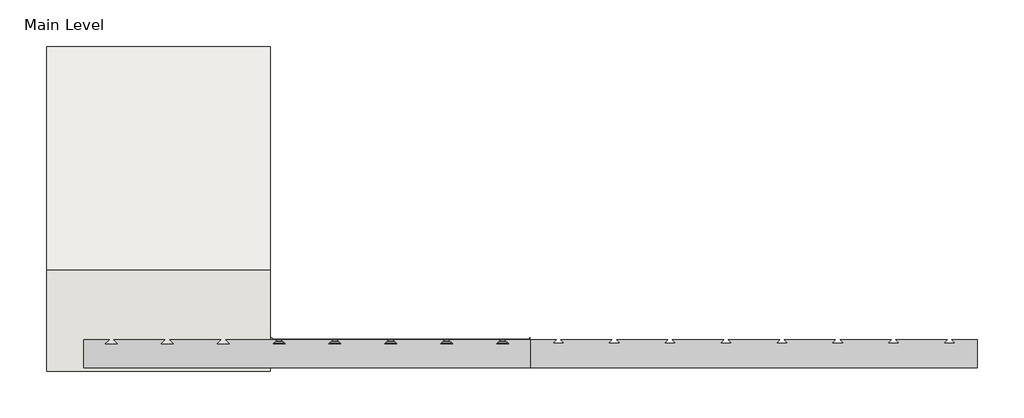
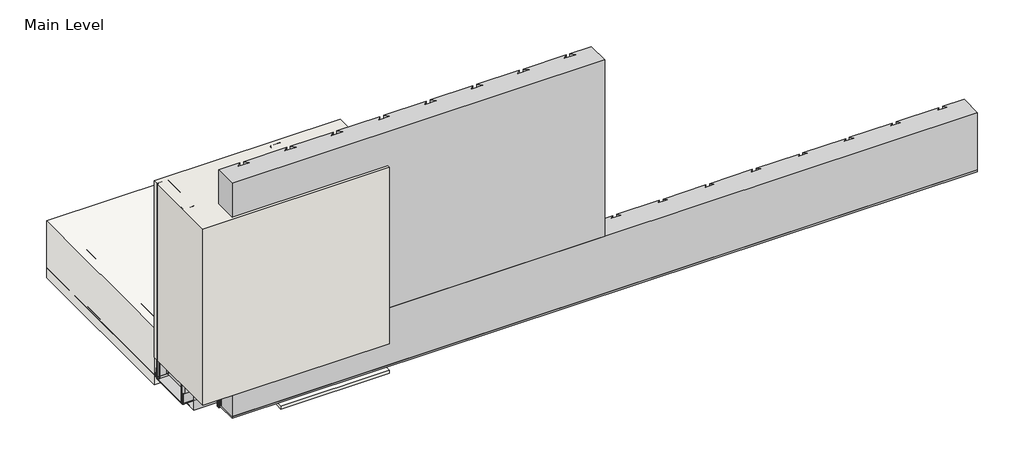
# One storey, incomplete: 15 proxies, 2 coverings, 2 walls.
"""IFC4 building model written with IfcOpenShell, lengths in millimetres."""

from ifc_helpers import new_model, si_unit, frame, origin, origin_with_axes, place, context, project, spatial, polyline, outline, extrude, transform, mapped, element, save
from components import generic_models_9a115d84, generic_models_4ec5f286, generic_models_2e656d56, generic_models_47e8b319, proxy_998bcb27, proxy_b027fc18, proxy_63d6b373, soffit_box_soffit_box_108ed7b6, wood_blocking_c9818c35, wood_blocking_63bdfc83

model = new_model("IFC4")

# Units and contexts
model_context = context("Model", 3, world=origin())
ifc_project = project(units=[si_unit("LENGTHUNIT", "METRE", prefix="MILLI")], contexts=[model_context])

# Site, building, storey
site = spatial("IfcSite", under=ifc_project)
building = spatial("IfcBuilding", under=site)
storey = spatial("IfcBuildingStorey", under=building, Name="Main Level", Elevation=0.0)

# Proxies
placement = place(None, origin())
generic_models_shape = generic_models_9a115d84(model_context)
element("IfcBuildingElementProxy", 1, Name="CRAi Generic Model Metal Stud Array : CRAi Generic Model Metal Stud Array", ObjectType="CRAi Generic Model Metal Stud Array : CRAi Generic Model Metal Stud Array", at=placement, inside=storey, context=model_context, shape_type="MappedRepresentation", body=[
    mapped(generic_models_shape, transform((26692.3726773, 726.0566297, -60.325), x_axis=(-1.0, 0.0, 0.0), y_axis=(0.0, -1.0, 0.0), z_axis=(0.0, 0.0, 1.0))),
])
generic_models_2_shape = generic_models_4ec5f286(model_context)
element("IfcBuildingElementProxy", 2, Name="Durabond Generic Model Insulation Adhesive Flat : Durabond Generic Model Insulation Adhesive Flat", ObjectType="Durabond Generic Model Insulation Adhesive Flat : Durabond Generic Model Insulation Adhesive Flat", at=placement, inside=storey, context=model_context, shape_type="MappedRepresentation", body=[
    mapped(generic_models_2_shape, transform((26628.0789273, 627.6316297, -9.525), x_axis=(1.0, 0.0, 0.0), y_axis=(0.0, 1.0, 0.0), z_axis=(0.0, 0.0, 1.0))),
])
element("IfcBuildingElementProxy", 3, Name="Durabond Generic Model Insulation Adhesive Flat : Durabond Generic Model Insulation Adhesive Flat", ObjectType="Durabond Generic Model Insulation Adhesive Flat : Durabond Generic Model Insulation Adhesive Flat", at=placement, inside=storey, context=model_context, shape_type="MappedRepresentation", body=[
    mapped(generic_models_2_shape, transform((26704.2789273, 627.6316297, -9.525), x_axis=(1.0, 0.0, 0.0), y_axis=(0.0, 1.0, 0.0), z_axis=(0.0, 0.0, 1.0))),
])
element("IfcBuildingElementProxy", 4, Name="Durabond Generic Model Insulation Adhesive Flat : Durabond Generic Model Insulation Adhesive Flat", ObjectType="Durabond Generic Model Insulation Adhesive Flat : Durabond Generic Model Insulation Adhesive Flat", at=placement, inside=storey, context=model_context, shape_type="MappedRepresentation", body=[
    mapped(generic_models_2_shape, transform((26780.4789273, 627.6316297, -9.525), x_axis=(1.0, 0.0, 0.0), y_axis=(0.0, 1.0, 0.0), z_axis=(0.0, 0.0, 1.0))),
])
element("IfcBuildingElementProxy", 5, Name="Durabond Generic Model Insulation Adhesive Flat : Durabond Generic Model Insulation Adhesive Flat", ObjectType="Durabond Generic Model Insulation Adhesive Flat : Durabond Generic Model Insulation Adhesive Flat", at=placement, inside=storey, context=model_context, shape_type="MappedRepresentation", body=[
    mapped(generic_models_2_shape, transform((26856.6789273, 627.6316297, -9.525), x_axis=(1.0, 0.0, 0.0), y_axis=(0.0, 1.0, 0.0), z_axis=(0.0, 0.0, 1.0))),
])
element("IfcBuildingElementProxy", 6, Name="Durabond Generic Model Insulation Adhesive Flat : Durabond Generic Model Insulation Adhesive Flat", ObjectType="Durabond Generic Model Insulation Adhesive Flat : Durabond Generic Model Insulation Adhesive Flat", at=placement, inside=storey, context=model_context, shape_type="MappedRepresentation", body=[
    mapped(generic_models_2_shape, transform((26932.8789273, 627.6316297, -9.525), x_axis=(1.0, 0.0, 0.0), y_axis=(0.0, 1.0, 0.0), z_axis=(0.0, 0.0, 1.0))),
])
element("IfcBuildingElementProxy", 7, Name="Durabond Generic Model Insulation Adhesive Flat : Durabond Generic Model Insulation Adhesive Flat", ObjectType="Durabond Generic Model Insulation Adhesive Flat : Durabond Generic Model Insulation Adhesive Flat", at=placement, inside=storey, context=model_context, shape_type="MappedRepresentation", body=[
    mapped(generic_models_2_shape, transform((27009.0789273, 627.6316297, -9.525), x_axis=(1.0, 0.0, 0.0), y_axis=(0.0, 1.0, 0.0), z_axis=(0.0, 0.0, 1.0))),
])
element("IfcBuildingElementProxy", 8, Name="Durabond Generic Model Insulation Adhesive Flat : Durabond Generic Model Insulation Adhesive Flat", ObjectType="Durabond Generic Model Insulation Adhesive Flat : Durabond Generic Model Insulation Adhesive Flat", at=placement, inside=storey, context=model_context, shape_type="MappedRepresentation", body=[
    mapped(generic_models_2_shape, transform((27085.2789273, 627.6316297, -9.525), x_axis=(1.0, 0.0, 0.0), y_axis=(0.0, 1.0, 0.0), z_axis=(0.0, 0.0, 1.0))),
])
generic_models_3_shape = generic_models_2e656d56(model_context)
generic_models_4_shape = generic_models_47e8b319(model_context)
element("IfcBuildingElementProxy", 9, Name="Durabond Generic Soffit Drainage Vent : Durabond Generic Soffit Drainage Vent", ObjectType="Durabond Generic Soffit Drainage Vent : Durabond Generic Soffit Drainage Vent", at=placement, inside=storey, context=model_context, shape_type="MappedRepresentation", body=[
    mapped(generic_models_3_shape, transform((27199.3497774, 626.0441297, -93.6625), x_axis=(1.0, 0.0, 0.0), y_axis=(0.0, 1.0, 0.0), z_axis=(0.0, 0.0, 1.0))),
    mapped(generic_models_4_shape, transform((27199.3497774, 626.0441297, -93.6625), x_axis=(1.0, 0.0, 0.0), y_axis=(0.0, 1.0, 0.0), z_axis=(0.0, 0.0, 1.0))),
])
proxy_shape = proxy_998bcb27(model_context)
element("IfcBuildingElementProxy", 10, Name="Durabond Generic Model Flexlite Insulation Board : 3\"", ObjectType="Durabond Generic Model Flexlite Insulation Board : 3\"", at=placement, inside=storey, context=model_context, shape_type="MappedRepresentation", body=[
    mapped(proxy_shape, transform((27199.5789273, 624.4566297, 422.275), x_axis=(1.0, 0.0, 0.0), y_axis=(0.0, 0.0, 1.0), z_axis=(0.0, -1.0, 0.0))),
])
proxy_2_shape = proxy_b027fc18(model_context)
element("IfcBuildingElementProxy", 11, Name="Durabond Generic Model Flexlite Vent Board : 3\"", ObjectType="Durabond Generic Model Flexlite Vent Board : 3\"", at=placement, inside=storey, context=model_context, shape_type="MappedRepresentation", body=[
    mapped(proxy_2_shape, transform((27809.1789273, 624.4566297, 15.875), x_axis=(1.0, 0.0, 0.0), y_axis=(0.0, 0.0, 1.0), z_axis=(0.0, -1.0, 0.0))),
])
proxy_3_shape = proxy_63d6b373(model_context)
element("IfcBuildingElementProxy", 12, Name="Durabond Generic Model Corner 90 Membrane : 4\" Barrier Seam Tape", ObjectType="Durabond Generic Model Corner 90 Membrane : 4\" Barrier Seam Tape", at=placement, inside=storey, context=model_context, shape_type="MappedRepresentation", body=[
    mapped(proxy_3_shape, transform((26514.5726773, 633.9816297, -82.55), x_axis=(0.0, 0.0, -1.0), y_axis=(0.0, 1.0, 0.0), z_axis=(1.0, 0.0, 0.0))),
])
soffit_box_soffit_box_shape = soffit_box_soffit_box_108ed7b6(model_context)
element("IfcBuildingElementProxy", 13, Name="Soffit Box : Soffit Box", ObjectType="Soffit Box : Soffit Box", at=placement, inside=storey, context=model_context, shape_type="MappedRepresentation", body=[
    mapped(soffit_box_soffit_box_shape, transform((0.0, 0.0, 0.0), x_axis=(1.0, 0.0, 0.0), y_axis=(0.0, 1.0, 0.0), z_axis=(0.0, 0.0, 1.0))),
])
wood_blocking_shape = wood_blocking_c9818c35(model_context)
element("IfcBuildingElementProxy", 14, Name="CRAi Generic Model Line Based Metal Framing Track : Wood Blocking", ObjectType="CRAi Generic Model Line Based Metal Framing Track : Wood Blocking", at=placement, inside=storey, context=model_context, shape_type="MappedRepresentation", body=[
    mapped(wood_blocking_shape, transform((26489.1726773, 649.8566297, -66.675), x_axis=(1.0, 0.0, 0.0), y_axis=(0.0, 1.0, 0.0), z_axis=(0.0, 0.0, 1.0))),
])
wood_blocking_2_shape = wood_blocking_63bdfc83(model_context)
element("IfcBuildingElementProxy", 15, Name="CRAi Generic Model Line Based Metal Framing Track : Wood Blocking", ObjectType="CRAi Generic Model Line Based Metal Framing Track : Wood Blocking", at=placement, inside=storey, context=model_context, shape_type="MappedRepresentation", body=[
    mapped(wood_blocking_2_shape, transform((26491.8622441, 802.2566297, 85.725), x_axis=(1.0, 0.0, 0.0), y_axis=(0.0, 0.0, -1.0), z_axis=(0.0, 1.0, 0.0))),
])

# Coverings
element("IfcCovering", 16, ObjectType="Durabond Detail Ceiling 3 Metal Stud", at=placement, inside=storey, context=model_context, shape_type="SweptSolid", body=[
    extrude(outline(polyline([(27098.7726773, 814.9566297), (26489.1726773, 814.9566297), (26489.1726773, 1424.5566297), (27098.7726773, 1424.5566297), (27098.7726773, 814.9566297)])), frame((0.0, 0.0, -95.25), z_axis=(0.0, 0.0, 1.0), x_axis=(1.0, 0.0, 0.0)), (0.0, 0.0, 1.0), 196.85),
])
element("IfcCovering", 17, ObjectType="Durabond Stucco Lamina", at=placement, inside=storey, context=model_context, shape_type="SweptSolid", body=[
    extrude(outline(polyline([(538.7316297, -92.3552522), (614.9316297, -85.688616), (614.9316297, -95.25), (538.7316297, -101.9166362), (538.7316297, -92.3552522)])), frame((26743.1726773, 0.0, 0.0), z_axis=(1.0, 0.0, 0.0), x_axis=(0.0, 1.0, 0.0)), (0.0, 0.0, 1.0), 355.6),
])

# Walls
element("IfcWall", 18, ObjectType="189mm (7.5”) EIFS Field Applied on Mtl. Stud Layer - 50mm Grooved Insulation Board Metal Stud Wall (AirStop)", at=placement, inside=storey, context=model_context, shape_type="SweptSolid", body=[
    extrude(outline(polyline([(27098.7726773, 538.7316297), (26489.1726773, 538.7316297), (26489.1726773, 814.9566297), (27098.7726773, 814.9566297), (27098.7726773, 538.7316297)])), origin_with_axes(), (0.0, 0.0, 1.0), 609.6),
])
element("IfcWall", 19, ObjectType="Durabond Stucco System Lamina Back of Soffit", at=placement, inside=storey, context=model_context, shape_type="SweptSolid", body=[
    extrude(outline(polyline([(27098.7726773, 614.9316297), (26743.1726773, 614.9316297), (26743.1726773, 621.2816297), (27098.7726773, 621.2816297), (27098.7726773, 614.9316297)])), frame((0.0, 0.0, -98.425), z_axis=(0.0, 0.0, 1.0), x_axis=(1.0, 0.0, 0.0)), (0.0, 0.0, 1.0), 47.625),
])

save(model, "model.ifc")
